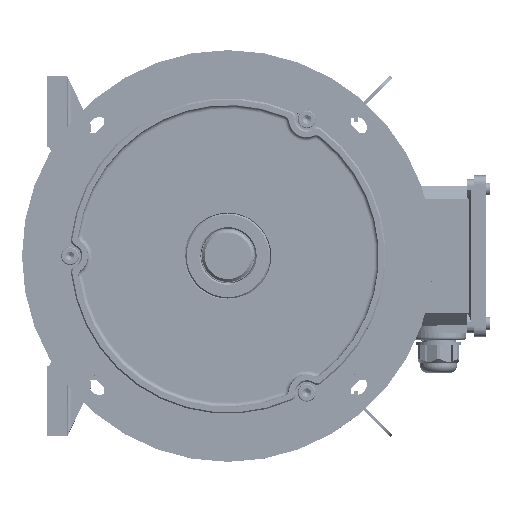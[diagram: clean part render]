
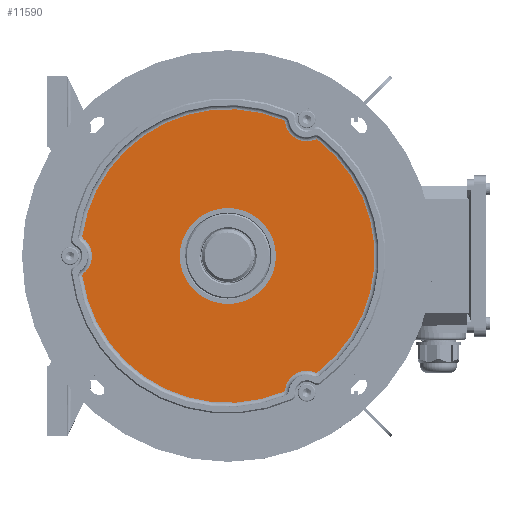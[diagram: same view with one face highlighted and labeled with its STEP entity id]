
A CAD part, top view. The second image highlights one B-rep face of the part: STEP entity #11590.
In plain terms, the highlighted planar face has unit normal (0, 0, 1).
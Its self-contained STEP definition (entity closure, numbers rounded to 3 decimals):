
#2951=PLANE('',#102906);
#11590=ADVANCED_FACE('',(#34914,#34915),#2951,.F.);
#34914=FACE_BOUND('',#38857,.T.);
#34915=FACE_BOUND('',#38858,.T.);
#38857=EDGE_LOOP('',(#56155));
#38858=EDGE_LOOP('',(#56156,#56157,#56158,#56159,#56160,#56161,#56162,#56163,
#56164,#56165,#56166,#56167));
#56155=ORIENTED_EDGE('',*,*,#87366,.F.);
#56156=ORIENTED_EDGE('',*,*,#87367,.T.);
#56157=ORIENTED_EDGE('',*,*,#87368,.T.);
#56158=ORIENTED_EDGE('',*,*,#87362,.T.);
#56159=ORIENTED_EDGE('',*,*,#87369,.T.);
#56160=ORIENTED_EDGE('',*,*,#87370,.T.);
#56161=ORIENTED_EDGE('',*,*,#87371,.T.);
#56162=ORIENTED_EDGE('',*,*,#87360,.T.);
#56163=ORIENTED_EDGE('',*,*,#87372,.T.);
#56164=ORIENTED_EDGE('',*,*,#87373,.T.);
#56165=ORIENTED_EDGE('',*,*,#87374,.T.);
#56166=ORIENTED_EDGE('',*,*,#87357,.T.);
#56167=ORIENTED_EDGE('',*,*,#87375,.T.);
#75537=VERTEX_POINT('',#160860);
#75538=VERTEX_POINT('',#160862);
#75539=VERTEX_POINT('',#160866);
#75540=VERTEX_POINT('',#160868);
#75541=VERTEX_POINT('',#160872);
#75542=VERTEX_POINT('',#160873);
#75545=VERTEX_POINT('',#160881);
#75546=VERTEX_POINT('',#160883);
#75547=VERTEX_POINT('',#160884);
#75548=VERTEX_POINT('',#160887);
#75549=VERTEX_POINT('',#160889);
#75550=VERTEX_POINT('',#160892);
#75551=VERTEX_POINT('',#160894);
#87357=EDGE_CURVE('',#75538,#75537,#96235,.T.);
#87360=EDGE_CURVE('',#75540,#75539,#96238,.T.);
#87362=EDGE_CURVE('',#75541,#75542,#96240,.T.);
#87366=EDGE_CURVE('',#75545,#75545,#96244,.T.);
#87367=EDGE_CURVE('',#75546,#75547,#96245,.T.);
#87368=EDGE_CURVE('',#75547,#75541,#96246,.T.);
#87369=EDGE_CURVE('',#75542,#75548,#96247,.T.);
#87370=EDGE_CURVE('',#75548,#75549,#96248,.T.);
#87371=EDGE_CURVE('',#75549,#75540,#96249,.T.);
#87372=EDGE_CURVE('',#75539,#75550,#96250,.T.);
#87373=EDGE_CURVE('',#75550,#75551,#96251,.T.);
#87374=EDGE_CURVE('',#75551,#75538,#96252,.T.);
#87375=EDGE_CURVE('',#75537,#75546,#96253,.T.);
#96235=CIRCLE('',#102884,107.);
#96238=CIRCLE('',#102888,107.);
#96240=CIRCLE('',#102891,107.);
#96244=CIRCLE('',#102896,35.);
#96245=CIRCLE('',#102897,16.);
#96246=CIRCLE('',#102898,2.);
#96247=CIRCLE('',#102899,2.);
#96248=CIRCLE('',#102900,16.);
#96249=CIRCLE('',#102901,2.);
#96250=CIRCLE('',#102902,2.);
#96251=CIRCLE('',#102903,16.);
#96252=CIRCLE('',#102904,2.);
#96253=CIRCLE('',#102905,2.);
#102884=AXIS2_PLACEMENT_3D('',#160861,#120489,#120490);
#102888=AXIS2_PLACEMENT_3D('',#160867,#120497,#120498);
#102891=AXIS2_PLACEMENT_3D('',#160871,#120503,#120504);
#102896=AXIS2_PLACEMENT_3D('',#160880,#120513,#120514);
#102897=AXIS2_PLACEMENT_3D('',#160882,#120515,#120516);
#102898=AXIS2_PLACEMENT_3D('',#160885,#120517,#120518);
#102899=AXIS2_PLACEMENT_3D('',#160886,#120519,#120520);
#102900=AXIS2_PLACEMENT_3D('',#160888,#120521,#120522);
#102901=AXIS2_PLACEMENT_3D('',#160890,#120523,#120524);
#102902=AXIS2_PLACEMENT_3D('',#160891,#120525,#120526);
#102903=AXIS2_PLACEMENT_3D('',#160893,#120527,#120528);
#102904=AXIS2_PLACEMENT_3D('',#160895,#120529,#120530);
#102905=AXIS2_PLACEMENT_3D('',#160896,#120531,#120532);
#102906=AXIS2_PLACEMENT_3D('',#160897,#120533,#120534);
#120489=DIRECTION('',(0.,0.,1.));
#120490=DIRECTION('',(0.,-1.,0.));
#120497=DIRECTION('',(0.,0.,1.));
#120498=DIRECTION('',(0.,-1.,0.));
#120503=DIRECTION('',(0.,0.,1.));
#120504=DIRECTION('',(0.,-1.,0.));
#120513=DIRECTION('',(0.,0.,1.));
#120514=DIRECTION('',(0.,-1.,0.));
#120515=DIRECTION('',(0.,0.,-1.));
#120516=DIRECTION('',(0.,1.,0.));
#120517=DIRECTION('',(0.,0.,1.));
#120518=DIRECTION('',(0.,1.,0.));
#120519=DIRECTION('',(0.,0.,1.));
#120520=DIRECTION('',(0.,1.,0.));
#120521=DIRECTION('',(0.,0.,-1.));
#120522=DIRECTION('',(0.,1.,0.));
#120523=DIRECTION('',(0.,0.,1.));
#120524=DIRECTION('',(0.,1.,0.));
#120525=DIRECTION('',(0.,0.,1.));
#120526=DIRECTION('',(0.,1.,0.));
#120527=DIRECTION('',(0.,0.,-1.));
#120528=DIRECTION('',(0.,1.,0.));
#120529=DIRECTION('',(0.,0.,1.));
#120530=DIRECTION('',(0.,1.,0.));
#120531=DIRECTION('',(0.,0.,1.));
#120532=DIRECTION('',(0.,1.,0.));
#120533=DIRECTION('',(0.,0.,-1.));
#120534=DIRECTION('',(0.,1.,0.));
#160860=CARTESIAN_POINT('',(-106.008,14.54,277.));
#160861=CARTESIAN_POINT('',(0.,0.,
277.));
#160862=CARTESIAN_POINT('',(40.412,99.075,277.));
#160866=CARTESIAN_POINT('',(65.596,84.535,277.));
#160867=CARTESIAN_POINT('',(0.,0.,
277.));
#160868=CARTESIAN_POINT('',(65.595,-84.535,277.));
#160871=CARTESIAN_POINT('',(0.,0.,
277.));
#160872=CARTESIAN_POINT('',(-106.008,-14.54,277.));
#160873=CARTESIAN_POINT('',(40.412,-99.075,277.));
#160880=CARTESIAN_POINT('',(0.,0.,
277.));
#160881=CARTESIAN_POINT('',(0.,-35.,277.));
#160882=CARTESIAN_POINT('',(-115.,0.,277.));
#160883=CARTESIAN_POINT('',(-105.245,12.683,277.));
#160884=CARTESIAN_POINT('',(-105.245,-12.683,277.));
#160885=CARTESIAN_POINT('',(-104.026,-14.268,277.));
#160886=CARTESIAN_POINT('',(39.657,-97.223,277.));
#160887=CARTESIAN_POINT('',(41.639,-97.486,277.));
#160888=CARTESIAN_POINT('',(57.5,-99.593,277.));
#160889=CARTESIAN_POINT('',(63.606,-84.804,277.));
#160890=CARTESIAN_POINT('',(64.369,-82.955,277.));
#160891=CARTESIAN_POINT('',(64.369,82.955,277.));
#160892=CARTESIAN_POINT('',(63.606,84.804,277.));
#160893=CARTESIAN_POINT('',(57.5,99.593,277.));
#160894=CARTESIAN_POINT('',(41.639,97.486,277.));
#160895=CARTESIAN_POINT('',(39.657,97.223,277.));
#160896=CARTESIAN_POINT('',(-104.026,14.268,277.));
#160897=CARTESIAN_POINT('',(107.,0.,277.));
